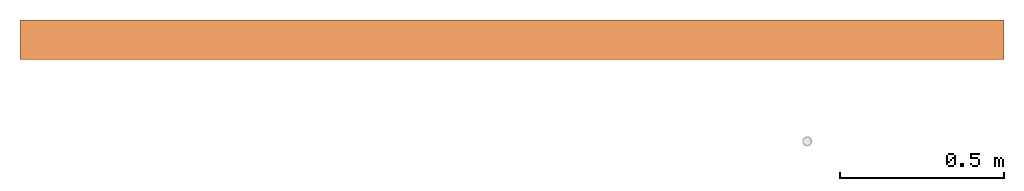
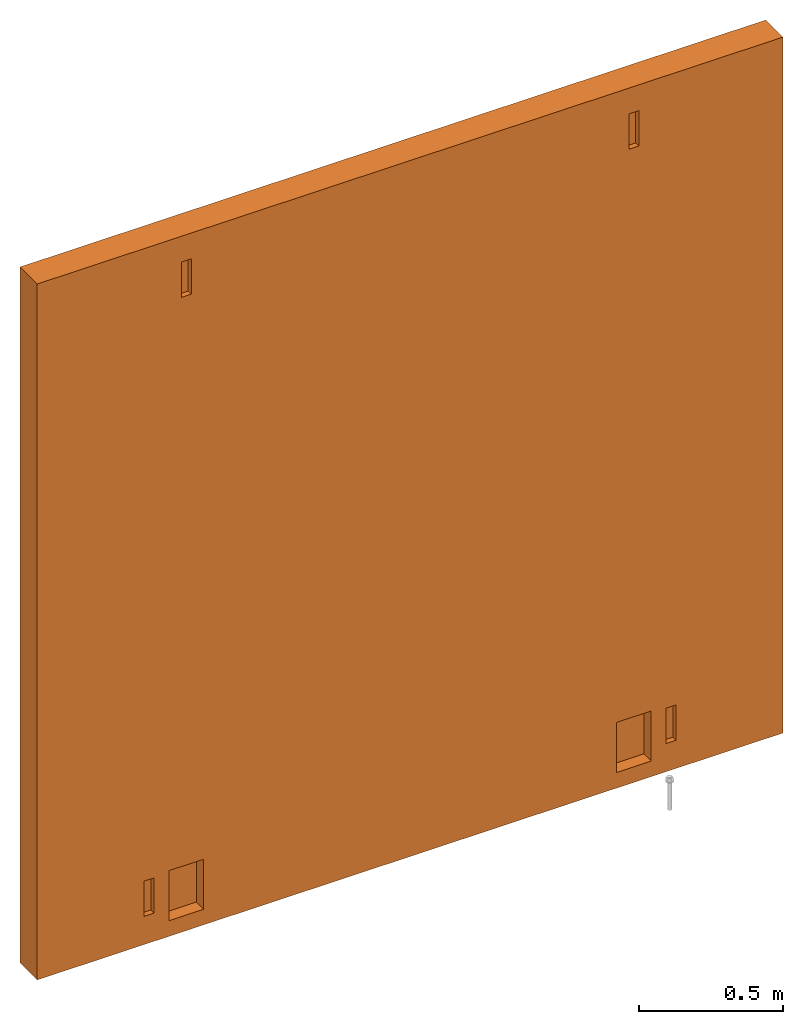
# One storey, part 2 of 2: 1 proxy.
"""IFC2X3 building model written with IfcOpenShell, lengths in metres."""

from ifc_helpers import new_model, entity, si_unit, converted_unit, derived_unit, direction, frame, origin, place, context, subcontext, project, spatial, faceted_brep, source, transform, mapped, material, type_object, type_shapes, element, save


model = new_model("IFC2X3")

# Units and contexts
model_context = context("Model", 3, precision=1e-05, world=origin(), true_north=direction((6.123031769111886e-17, 1.0)))
body_context = subcontext(model_context, "Body", "Model", "MODEL_VIEW")
ifc_project = project(units=[si_unit("LENGTHUNIT", "METRE"), si_unit("AREAUNIT", "SQUARE_METRE"), converted_unit("PLANEANGLEUNIT", "DEGREE", entity("IfcPlaneAngleMeasure", 0.017453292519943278), si_unit("PLANEANGLEUNIT", "RADIAN"), dimensions=[0, 0, 0, 0, 0, 0, 0]), si_unit("VOLUMEUNIT", "CUBIC_METRE"), derived_unit("THERMALTRANSMITTANCEUNIT", [(si_unit("MASSUNIT", "GRAM", prefix="KILO"), 1), (si_unit("THERMODYNAMICTEMPERATUREUNIT", "KELVIN"), -1), (si_unit("TIMEUNIT", "SECOND"), -3)]), derived_unit("USERDEFINED", [(si_unit("MASSUNIT", "GRAM", prefix="KILO"), 1), (si_unit("THERMODYNAMICTEMPERATUREUNIT", "KELVIN"), -1), (si_unit("TIMEUNIT", "SECOND"), -2)]), derived_unit("THERMALRESISTANCEUNIT", [(si_unit("MASSUNIT", "GRAM", prefix="KILO"), -1), (si_unit("TIMEUNIT", "SECOND"), 3), (si_unit("THERMODYNAMICTEMPERATUREUNIT", "KELVIN"), 1)]), derived_unit("MASSDENSITYUNIT", [(si_unit("MASSUNIT", "GRAM", prefix="KILO"), 1), (si_unit("LENGTHUNIT", "METRE"), -3)]), derived_unit("VAPORPERMEABILITYUNIT", [(si_unit("LENGTHUNIT", "METRE"), -1), (si_unit("TIMEUNIT", "SECOND"), 1)]), derived_unit("USERDEFINED", [(si_unit("MASSUNIT", "GRAM", prefix="KILO"), 1), (si_unit("TIMEUNIT", "SECOND"), -3), (si_unit("LENGTHUNIT", "METRE"), 3), (si_unit("ELECTRICCURRENTUNIT", "AMPERE"), -2)]), si_unit("PRESSUREUNIT", "PASCAL")], contexts=[model_context])

# Site, building, storey
site_placement = place(None, origin())
site = spatial("IfcSite", under=ifc_project, at=site_placement, Name="Default", CompositionType="ELEMENT")
building_placement = place(site_placement, origin())
building = spatial("IfcBuilding", under=site, at=building_placement, CompositionType="ELEMENT")
storey_placement = place(building_placement, frame((0.0, 0.0, -3.0)))
storey = spatial("IfcBuildingStorey", under=building, at=storey_placement, Name="B1", CompositionType="ELEMENT", Elevation=-3.0000000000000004)

# Proxy
ifc_material = material(Name="Hormigón reforzado con fibra de vidrio")
building_element_proxy_type = type_object("IfcBuildingElementProxyType", Name="Panel Hormigón:Panel Hormigón", PredefinedType="NOTDEFINED", material=ifc_material)
shared_shape = source(origin(), body_context, "Body", "Brep", [
    faceted_brep([(7.887720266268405, 16.074530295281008, 2.96), (4.887720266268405, 16.07453029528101, 2.96), (4.887720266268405, 15.954530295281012, 2.96), (7.887720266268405, 15.954530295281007, 2.96), (7.887720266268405, 15.954530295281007, 0.0), (4.887720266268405, 15.954530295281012, 0.0), (4.887720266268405, 16.07453029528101, 0.0), (7.887720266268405, 16.074530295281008, 0.0), (5.46757026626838, 15.954530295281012, 2.849999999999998), (5.507870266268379, 15.95453029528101, 2.8499999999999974), (5.467570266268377, 15.954530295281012, 2.699999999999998), (7.267570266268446, 15.954530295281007, 2.8500000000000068), (5.317570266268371, 15.954530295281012, 0.26999999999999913), (5.317570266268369, 15.954530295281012, 0.1199999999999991), (5.417589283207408, 15.954530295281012, 0.06649999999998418), (5.557589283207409, 15.95453029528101, 0.0664999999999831), (7.217589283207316, 15.954530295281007, 0.06649999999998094), (7.357589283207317, 15.954530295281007, 0.06649999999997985), (7.4578702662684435, 15.954530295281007, 0.11999999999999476), (7.457870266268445, 15.954530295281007, 0.2699999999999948), (7.307870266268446, 15.954530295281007, 2.850000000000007), (7.307870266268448, 15.954530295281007, 2.7000000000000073), (7.357589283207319, 15.954530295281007, 0.2795000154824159), (7.417570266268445, 15.954530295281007, 0.2699999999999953), (7.417570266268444, 15.954530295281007, 0.1199999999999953), (7.217589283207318, 15.954530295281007, 0.27950001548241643), (5.5575892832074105, 15.95453029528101, 0.2795000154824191), (5.507870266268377, 15.95453029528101, 2.6999999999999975), (7.267570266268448, 15.954530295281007, 2.7000000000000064), (7.258828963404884, 15.954530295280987, 0.2795000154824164), (7.308209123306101, 15.954530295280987, 0.279500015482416), (5.41758928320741, 15.954530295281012, 0.27950001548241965), (5.458828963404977, 15.95453029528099, 0.2795000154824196), (5.508209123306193, 15.95453029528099, 0.27950001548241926), (5.357870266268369, 15.954530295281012, 0.11999999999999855), (5.35787026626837, 15.954530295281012, 0.2699999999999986), (5.46757026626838, 15.976605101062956, 2.849999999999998), (5.507870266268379, 15.976605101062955, 2.8499999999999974), (7.267570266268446, 15.976605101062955, 2.8500000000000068), (7.307870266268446, 15.976605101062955, 2.850000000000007), (5.4675702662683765, 15.976605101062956, 2.699999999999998), (5.507870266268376, 15.976605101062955, 2.6999999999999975), (7.307870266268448, 15.976605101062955, 2.7000000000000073), (7.267570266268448, 15.976605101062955, 2.7000000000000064), (5.317570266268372, 15.97660510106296, 0.26999999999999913), (5.317570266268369, 15.97660510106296, 0.11999999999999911), (5.357870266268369, 15.97660510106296, 0.1199999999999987), (5.357870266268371, 15.97660510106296, 0.2699999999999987), (7.417570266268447, 15.976605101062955, 0.2699999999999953), (7.417570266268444, 15.976605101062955, 0.11999999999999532), (7.4578702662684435, 15.976605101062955, 0.11999999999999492), (7.457870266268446, 15.976605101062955, 0.2699999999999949), (5.55758928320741, 16.00553029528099, 0.24350000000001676), (5.557589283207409, 16.00553029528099, 0.06649999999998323), (5.55758928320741, 15.95480288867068, 0.2815705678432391), (5.55758928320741, 15.955602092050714, 0.2835000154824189), (5.55758928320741, 15.956873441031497, 0.2851568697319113), (5.55758928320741, 15.958530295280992, 0.2864282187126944), (5.55758928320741, 15.960459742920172, 0.28722742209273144), (5.55758928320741, 15.96253029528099, 0.28750001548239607), (5.5575892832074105, 15.997530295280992, 0.28750001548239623), (5.5575892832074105, 15.998944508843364, 0.28808580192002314), (5.5575892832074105, 15.99953029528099, 0.28950001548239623), (5.5575892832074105, 15.99953029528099, 0.3025000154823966), (5.5575892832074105, 16.00553029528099, 0.3025000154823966), (5.5575892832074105, 16.00553029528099, 0.2895000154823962), (5.5575892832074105, 16.005257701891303, 0.287429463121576), (5.5575892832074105, 16.004458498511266, 0.28550001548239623), (5.55758928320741, 16.003187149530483, 0.2838431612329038), (5.55758928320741, 16.00153029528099, 0.2825718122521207), (5.55758928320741, 15.999600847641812, 0.28177260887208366), (5.55758928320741, 15.997530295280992, 0.2815000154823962), (5.55758928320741, 15.981908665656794, 0.2815000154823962), (5.41758928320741, 16.004458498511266, 0.28550001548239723), (5.41758928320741, 16.005257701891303, 0.287429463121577), (5.41758928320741, 16.00553029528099, 0.2895000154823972), (5.41758928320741, 16.00553029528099, 0.3025000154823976), (5.41758928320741, 15.99953029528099, 0.3025000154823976), (5.41758928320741, 15.99953029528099, 0.28950001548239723), (5.41758928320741, 15.998944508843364, 0.2880858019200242), (5.41758928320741, 15.997530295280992, 0.28750001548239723), (5.417589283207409, 15.96253029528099, 0.2875000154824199), (5.417589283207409, 15.960459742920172, 0.28722742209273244), (5.417589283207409, 15.958530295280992, 0.2864282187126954), (5.417589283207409, 15.956873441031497, 0.28515686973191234), (5.417589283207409, 15.955602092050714, 0.28350001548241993), (5.417589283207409, 15.95480288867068, 0.2815705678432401), (5.417589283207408, 16.00553029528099, 0.0664999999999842), (5.417589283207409, 16.00553029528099, 0.24350000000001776), (5.417589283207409, 15.981908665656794, 0.2815000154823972), (5.417589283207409, 15.997530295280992, 0.2815000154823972), (5.417589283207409, 15.999600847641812, 0.28177260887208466), (5.417589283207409, 16.00153029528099, 0.2825718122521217), (5.417589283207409, 16.003187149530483, 0.2838431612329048), (7.217589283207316, 16.00553029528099, 0.06649999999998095), (7.357589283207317, 16.00553029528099, 0.06649999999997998), (5.458828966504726, 16.00553029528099, 0.2895000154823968), (5.508209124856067, 16.00553029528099, 0.28950001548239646), (7.217589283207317, 16.00553029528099, 0.24350000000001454), (7.357589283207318, 16.00553029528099, 0.2435000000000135), (7.357589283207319, 16.00553029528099, 0.30250001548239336), (7.217589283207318, 16.00553029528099, 0.30250001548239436), (7.217589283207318, 16.00553029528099, 0.2895000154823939), (7.258828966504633, 16.00553029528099, 0.28950001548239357), (7.308209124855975, 16.00553029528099, 0.28950001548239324), (7.357589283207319, 16.00553029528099, 0.2895000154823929), (7.357589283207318, 15.981908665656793, 0.281500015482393), (7.217589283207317, 15.981908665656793, 0.281500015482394), (5.508209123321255, 15.997530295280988, 0.28150001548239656), (5.458828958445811, 15.997530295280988, 0.2815000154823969), (7.357589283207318, 15.997530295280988, 0.281500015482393), (7.308209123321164, 15.997530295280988, 0.28150001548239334), (7.258828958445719, 15.997530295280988, 0.2815000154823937), (7.217589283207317, 15.997530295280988, 0.281500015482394), (5.483519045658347, 16.00318714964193, 0.2838431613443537), (7.283519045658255, 16.00318714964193, 0.28384316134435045), (7.217589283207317, 16.003187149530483, 0.28384316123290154), (7.217589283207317, 16.00153029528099, 0.28257181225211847), (7.357589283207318, 16.00153029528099, 0.28257181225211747), (7.357589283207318, 16.003187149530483, 0.28384316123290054), (7.217589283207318, 16.004458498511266, 0.28550001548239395), (7.357589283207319, 16.004458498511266, 0.28550001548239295), (7.217589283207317, 15.99960084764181, 0.28177260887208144), (7.357589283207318, 15.99960084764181, 0.28177260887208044), (7.217589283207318, 16.0052577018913, 0.2874294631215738), (7.357589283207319, 16.0052577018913, 0.2874294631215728), (7.357589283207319, 15.999530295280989, 0.30250001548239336), (7.217589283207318, 15.999530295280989, 0.30250001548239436), (5.545244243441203, 15.99953029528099, 0.28950001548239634), (5.536969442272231, 15.99953029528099, 0.2895000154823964), (5.526659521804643, 15.999530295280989, 0.28950001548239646), (5.516349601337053, 15.99953029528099, 0.2895000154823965), (5.504004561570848, 15.999530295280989, 0.2895000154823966), (5.4916595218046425, 15.99953029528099, 0.2895000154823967), (5.479314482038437, 15.999530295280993, 0.2895000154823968), (5.466969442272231, 15.999530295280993, 0.2895000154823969), (5.454624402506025, 15.99953029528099, 0.28950001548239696), (5.44227936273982, 15.999530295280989, 0.289500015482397), (5.429934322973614, 15.99953029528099, 0.2895000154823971), (7.357589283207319, 15.999530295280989, 0.289500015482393), (7.345244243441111, 15.999530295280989, 0.2895000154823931), (7.336969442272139, 15.999530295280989, 0.2895000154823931), (7.32665952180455, 15.999530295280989, 0.28950001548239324), (7.316349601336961, 15.999530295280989, 0.2895000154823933), (7.304004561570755, 15.999530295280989, 0.28950001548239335), (7.29165952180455, 15.999530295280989, 0.28950001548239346), (7.2793144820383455, 15.999530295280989, 0.28950001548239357), (7.266969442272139, 15.999530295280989, 0.2895000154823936), (7.254624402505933, 15.999530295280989, 0.28950001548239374), (7.242279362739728, 15.999530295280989, 0.2895000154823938), (7.229934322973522, 15.999530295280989, 0.2895000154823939), (7.217589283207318, 15.999530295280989, 0.289500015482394), (5.546357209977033, 15.99894450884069, 0.2880858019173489), (5.532899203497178, 15.997530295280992, 0.28750001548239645), (5.531814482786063, 15.998999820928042, 0.2881433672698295), (7.357589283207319, 15.998944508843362, 0.28808580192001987), (7.346357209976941, 15.998944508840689, 0.2880858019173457), (7.217589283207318, 15.998944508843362, 0.2880858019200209), (5.436106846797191, 15.998944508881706, 0.28808580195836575), (7.2361068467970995, 15.998944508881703, 0.2880858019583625), (5.429934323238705, 15.997530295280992, 0.2875000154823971), (7.357589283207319, 15.997530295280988, 0.287500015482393), (7.229934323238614, 15.997530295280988, 0.2875000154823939), (7.217589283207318, 15.997530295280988, 0.287500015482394), (5.521059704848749, 15.99908249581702, 0.2882387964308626), (5.522589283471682, 15.997530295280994, 0.2875000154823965), (5.505089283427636, 15.997530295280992, 0.2875000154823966), (5.510343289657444, 15.998963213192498, 0.2881047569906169), (7.322589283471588, 15.997530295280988, 0.28750001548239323), (7.305089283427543, 15.997530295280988, 0.28750001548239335), (7.310343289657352, 15.998963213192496, 0.2881047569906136), (5.497832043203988, 15.998911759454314, 0.28805379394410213), (7.297832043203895, 15.998911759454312, 0.2880537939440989), (5.4858992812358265, 15.999010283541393, 0.2881547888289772), (5.442279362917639, 15.997530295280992, 0.28750001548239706), (5.4493122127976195, 15.998944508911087, 0.28808580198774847), (7.2422793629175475, 15.997530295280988, 0.2875000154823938), (7.249312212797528, 15.998944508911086, 0.28808580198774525), (5.461230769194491, 15.998872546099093, 0.2880173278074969), (5.454624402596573, 15.997530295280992, 0.287500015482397), (7.331814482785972, 15.99899982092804, 0.2881433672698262), (5.545244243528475, 15.997530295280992, 0.28750001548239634), (7.345244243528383, 15.997530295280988, 0.2875000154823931), (7.332899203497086, 15.997530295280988, 0.2875000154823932), (5.487589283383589, 15.997530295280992, 0.28750001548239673), (7.2875892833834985, 15.997530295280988, 0.28750001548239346), (5.473149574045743, 15.998944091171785, 0.2880853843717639), (5.47727936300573, 15.997530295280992, 0.2875000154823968), (7.261230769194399, 15.998872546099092, 0.2880173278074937), (7.25462440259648, 15.997530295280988, 0.28750001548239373), (7.27314957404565, 15.998944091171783, 0.2880853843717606), (7.285899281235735, 15.999010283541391, 0.28815478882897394), (5.466969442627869, 15.997530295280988, 0.2875000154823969), (7.266969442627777, 15.997530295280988, 0.2875000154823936), (7.321059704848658, 15.999082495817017, 0.28823879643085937), (7.277279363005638, 15.997530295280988, 0.28750001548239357), (5.516349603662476, 15.96253029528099, 0.2875000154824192), (5.46696944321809, 15.962530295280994, 0.28750001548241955), (7.357589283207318, 15.962530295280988, 0.2875000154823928), (7.316349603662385, 15.962530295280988, 0.28750001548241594), (7.266969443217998, 15.962530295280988, 0.28750001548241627), (7.217589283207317, 15.962530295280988, 0.28750001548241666), (7.217589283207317, 15.96045974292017, 0.2872274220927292), (7.357589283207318, 15.96045974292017, 0.2872274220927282), (5.491659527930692, 15.957063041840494, 0.28534031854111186), (7.2916595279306, 15.957063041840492, 0.28534031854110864), (7.217589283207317, 15.954802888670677, 0.28157056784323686), (7.357589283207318, 15.954802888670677, 0.28157056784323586), (7.357589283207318, 15.955602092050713, 0.28350001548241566), (7.357589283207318, 15.956873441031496, 0.285156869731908), (7.357589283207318, 15.958530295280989, 0.28642821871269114), (7.217589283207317, 15.958530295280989, 0.2864282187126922), (7.217589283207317, 15.956873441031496, 0.28515686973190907), (7.217589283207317, 15.955602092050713, 0.28350001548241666)], [[[0, 1, 2, 3]], [[4, 5, 6, 7]], [[2, 1, 6, 5]], [[2, 8, 9]], [[8, 2, 10]], [[2, 9, 11]], [[10, 2, 12]], [[11, 3, 2]], [[12, 2, 5]], [[5, 13, 12]], [[13, 5, 14]], [[15, 14, 5]], [[5, 16, 15]], [[16, 5, 4]], [[17, 16, 4]], [[4, 18, 17]], [[18, 4, 19]], [[19, 4, 3]], [[3, 11, 20]], [[3, 20, 21]], [[3, 21, 19]], [[19, 21, 22]], [[23, 19, 22]], [[17, 18, 24]], [[23, 22, 24]], [[22, 17, 24]], [[15, 16, 25]], [[26, 15, 25]], [[25, 27, 26]], [[27, 25, 28]], [[28, 25, 29]], [[28, 29, 30]], [[28, 30, 22]], [[22, 21, 28]], [[9, 27, 28]], [[28, 11, 9]], [[26, 27, 10]], [[12, 31, 10]], [[10, 31, 32]], [[10, 32, 33]], [[10, 33, 26]], [[34, 14, 31]], [[14, 34, 13]], [[12, 35, 31]], [[34, 31, 35]], [[0, 3, 4, 7]], [[1, 0, 7, 6]], [[8, 36, 37, 9]], [[38, 39, 20, 11]], [[40, 10, 27, 41]], [[28, 21, 42, 43]], [[10, 40, 36, 8]], [[41, 27, 9, 37]], [[41, 37, 36, 40]], [[39, 38, 43, 42]], [[44, 45, 46, 47]], [[48, 49, 50, 51]], [[20, 39, 42, 21]], [[38, 11, 28, 43]], [[52, 53, 15, 26, 54, 55, 56, 57, 58, 59, 60, 61, 62, 63, 64, 65, 66, 67, 68, 69, 70, 71, 72]], [[73, 74, 75, 76, 77, 78, 79, 80, 81, 82, 83, 84, 85, 86, 31, 14, 87, 88, 89, 90, 91, 92, 93]], [[87, 14, 15, 53]], [[94, 16, 17, 95]], [[88, 87, 53, 52]], [[64, 76, 75, 96, 97, 65]], [[98, 94, 95, 99]], [[100, 101, 102, 103, 104, 105]], [[88, 52, 72, 89]], [[98, 99, 106, 107]], [[89, 72, 71, 108, 109, 90]], [[107, 106, 110, 111, 112, 113]], [[114, 93, 92]], [[69, 68, 114]], [[115, 116, 117]], [[118, 119, 115]], [[96, 114, 97]], [[103, 115, 104]], [[114, 96, 73]], [[66, 97, 67]], [[114, 73, 93]], [[67, 114, 68]], [[115, 120, 116]], [[121, 115, 119]], [[92, 91, 109]], [[90, 109, 91]], [[108, 71, 70]], [[113, 112, 122]], [[111, 110, 123]], [[92, 109, 114]], [[114, 109, 108]], [[115, 112, 111]], [[96, 75, 74]], [[65, 97, 66]], [[103, 102, 124]], [[105, 104, 125]], [[114, 67, 97]], [[70, 69, 108]], [[114, 108, 69]], [[74, 73, 96]], [[76, 64, 63, 77]], [[101, 100, 126, 127]], [[63, 62, 128, 129, 130, 131, 132, 133, 134, 135, 136, 137, 138, 78, 77]], [[126, 139, 140, 141, 142, 143, 144, 145, 146, 147, 148, 149, 150, 151, 127]], [[152, 153, 154]], [[128, 62, 61, 152, 129]], [[79, 78, 138]], [[140, 139, 155, 156, 141]], [[157, 151, 150]], [[158, 138, 137]], [[159, 150, 149]], [[60, 152, 61]], [[79, 160, 80]], [[161, 156, 155]], [[157, 162, 163]], [[164, 130, 154]], [[165, 166, 167]], [[168, 169, 170]], [[132, 171, 133]], [[144, 172, 145]], [[173, 133, 171]], [[174, 158, 175]], [[176, 159, 177]], [[132, 131, 167]], [[144, 143, 170]], [[178, 179, 175]], [[138, 158, 79]], [[150, 159, 157]], [[165, 167, 164]], [[158, 160, 79]], [[159, 162, 157]], [[166, 171, 167]], [[129, 154, 130]], [[141, 180, 142]], [[158, 174, 160]], [[159, 176, 162]], [[60, 181, 153, 152]], [[161, 182, 183, 156]], [[165, 154, 153]], [[168, 180, 183]], [[166, 184, 171]], [[169, 185, 172]], [[173, 171, 184]], [[129, 152, 154]], [[175, 158, 137]], [[177, 159, 149]], [[175, 137, 136]], [[177, 149, 148]], [[135, 186, 178]], [[132, 167, 171]], [[167, 131, 164]], [[173, 187, 186]], [[178, 136, 135]], [[188, 148, 147]], [[179, 174, 175]], [[189, 176, 177]], [[186, 134, 173]], [[186, 135, 134]], [[190, 147, 146]], [[134, 133, 173]], [[146, 145, 191]], [[186, 192, 178]], [[179, 178, 192]], [[189, 188, 193]], [[178, 175, 136]], [[130, 164, 131]], [[142, 194, 143]], [[165, 164, 154]], [[187, 173, 184]], [[195, 191, 185]], [[187, 192, 186]], [[195, 193, 190]], [[59, 196, 197, 81, 80, 160, 174, 179, 192, 187, 184, 166, 165, 153, 181, 60]], [[198, 199, 200, 201, 163, 162, 176, 189, 193, 195, 185, 169, 168, 183, 182, 161]], [[82, 81, 197]], [[196, 59, 58]], [[202, 201, 200]], [[199, 198, 203]], [[55, 33, 204]], [[82, 197, 83]], [[204, 32, 84]], [[56, 204, 57]], [[54, 33, 55]], [[196, 58, 57]], [[84, 83, 204]], [[32, 85, 84]], [[204, 83, 197]], [[196, 204, 197]], [[199, 205, 200]], [[86, 32, 31]], [[54, 26, 33]], [[206, 29, 25]], [[207, 22, 30]], [[196, 57, 204]], [[32, 204, 33]], [[29, 205, 30]], [[56, 55, 204]], [[32, 86, 85]], [[99, 95, 17, 22, 207, 208, 209, 210, 203, 198, 161, 155, 139, 126, 100, 105, 125, 121, 119, 118, 123, 110, 106]], [[120, 124, 102, 101, 127, 151, 157, 163, 201, 202, 211, 212, 213, 206, 25, 16, 94, 98, 107, 113, 122, 117, 116]], [[115, 103, 120]], [[125, 104, 121]], [[117, 122, 112]], [[117, 112, 115]], [[115, 121, 104]], [[123, 118, 111]], [[115, 111, 118]], [[124, 120, 103]], [[156, 183, 180]], [[194, 142, 180]], [[191, 145, 172]], [[188, 189, 177]], [[168, 170, 194]], [[169, 172, 170]], [[191, 172, 185]], [[141, 156, 180]], [[147, 190, 188]], [[144, 170, 172]], [[170, 143, 194]], [[191, 195, 190]], [[190, 146, 191]], [[190, 193, 188]], [[188, 177, 148]], [[168, 194, 180]], [[208, 30, 205]], [[202, 200, 211]], [[205, 29, 212]], [[209, 205, 210]], [[207, 30, 208]], [[199, 203, 210]], [[212, 211, 205]], [[29, 213, 212]], [[205, 211, 200]], [[199, 210, 205]], [[209, 208, 205]], [[29, 206, 213]], [[34, 46, 45, 13]], [[18, 50, 49, 24]], [[47, 35, 12, 44]], [[51, 19, 23, 48]], [[35, 47, 46, 34]], [[44, 12, 13, 45]], [[19, 51, 50, 18]], [[48, 23, 24, 49]]]),
])
type_shapes(building_element_proxy_type, [shared_shape])
proxy_placement = place(storey_placement, frame((0.0, 0.0, 2.85)))
element("IfcBuildingElementProxy", 1, at=proxy_placement, inside=storey, type_object=building_element_proxy_type, material=ifc_material, Name="Panel Hormigón:Panel Hormigón", ObjectType="Panel Hormigón:Panel Hormigón", context=body_context, shape_type="MappedRepresentation", body=[
    mapped(shared_shape, transform((0.0, 0.0, 0.0), scale=1.0)),
])

save(model, "model.ifc")
